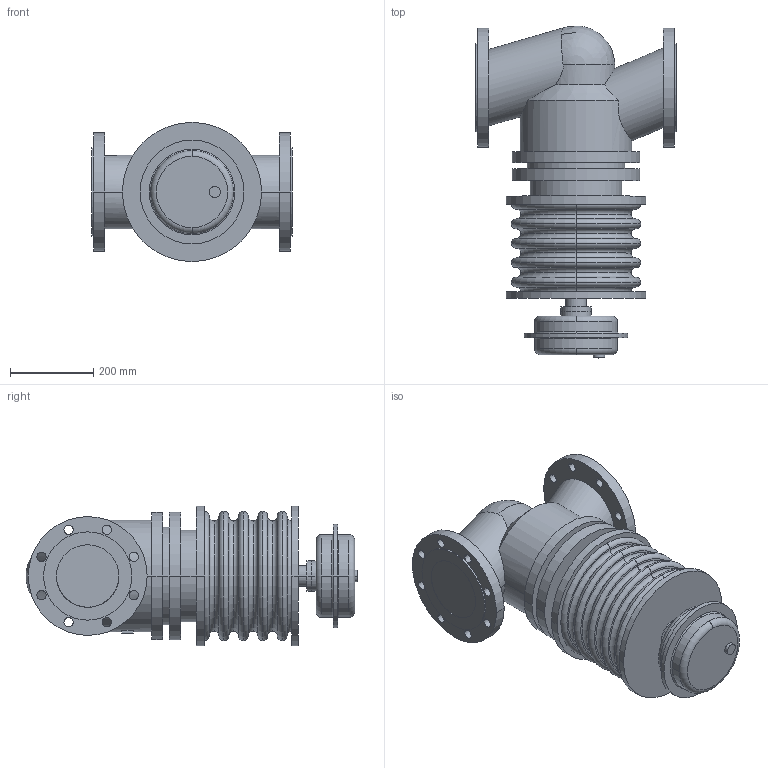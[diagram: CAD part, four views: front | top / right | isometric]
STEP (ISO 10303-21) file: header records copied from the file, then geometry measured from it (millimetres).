
FILE_DESCRIPTION( ( '' ), '1' );
FILE_NAME( 'F:/DE-SHS/TB/OR/04-Sonstiges/daten/files_3d/PREDU/PREDU-PN16-DMA250/c000005361.stp', '2014-06-03T11:14:07', ( '' ), ( '' ), ' ', ' ', ' ' );
FILE_SCHEMA( ( 'CONFIG_CONTROL_DESIGN' ) );
Length unit declared in the file: millimetre
Products named in the file (2): 1; 2
Bounding box: 480 x 796.52 x 334 mm (x, y, z)
Volume: 46537203.8 mm3; surface area: 1455683.8 mm2
Topology: 2 solids, 2 shells, 185 faces, 468 edges, 308 vertices
Faces by surface type: cylinder 80, torus 44, plane 40, cone 20, sphere 1
Entity records: 6417 total; most frequent: CARTESIAN_POINT 1517, DIRECTION 1147, ORIENTED_EDGE 932, AXIS2_PLACEMENT_3D 508, EDGE_CURVE 466, CIRCLE 315, VERTEX_POINT 308, EDGE_LOOP 240
